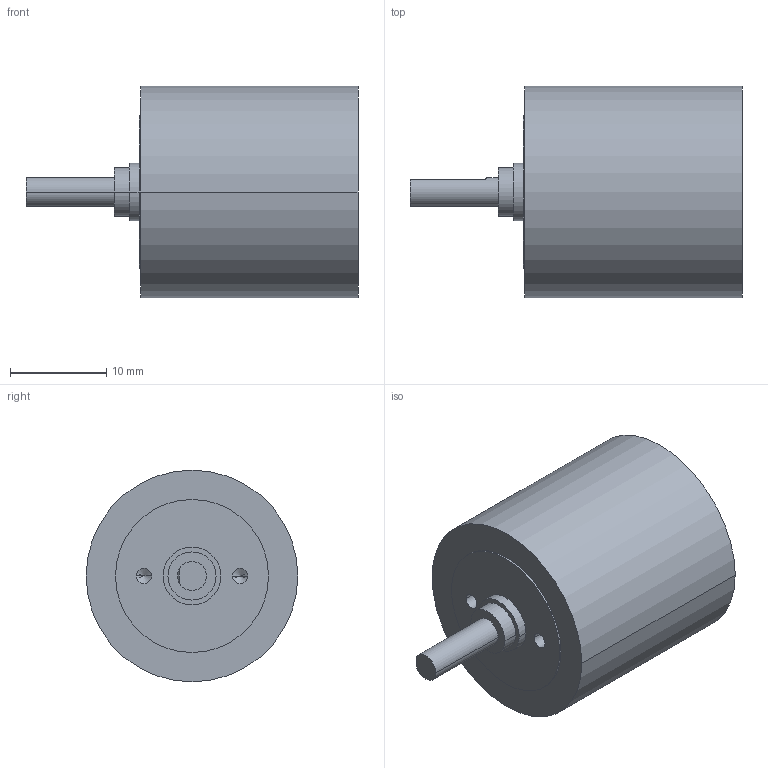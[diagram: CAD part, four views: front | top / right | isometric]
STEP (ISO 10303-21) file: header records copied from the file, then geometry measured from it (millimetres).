
FILE_DESCRIPTION((''),'2;1');
FILE_NAME('1118169','2010-02-04T',('MMAGMIBU'),(''),'PRO/ENGINEER BY PARAMETRIC TECHNOLOGY CORPORATION, 2009230','PRO/ENGINEER BY PARAMETRIC TECHNOLOGY CORPORATION, 2009230','');
FILE_SCHEMA(('CONFIG_CONTROL_DESIGN'));
Length unit declared in the file: millimetre
Products named in the file (1): 1118169
Bounding box: 34.5 x 22 x 22 mm (x, y, z)
Volume: 7960.2 mm3; surface area: 2645.4 mm2
Topology: 1 solids, 1 shells, 29 faces, 62 edges, 38 vertices
Faces by surface type: cylinder 16, plane 9, cone 4
Entity records: 807 total; most frequent: DIRECTION 146, CARTESIAN_POINT 130, ORIENTED_EDGE 116, AXIS2_PLACEMENT_3D 61, EDGE_CURVE 58, VERTEX_POINT 38, EDGE_LOOP 36, CIRCLE 32
